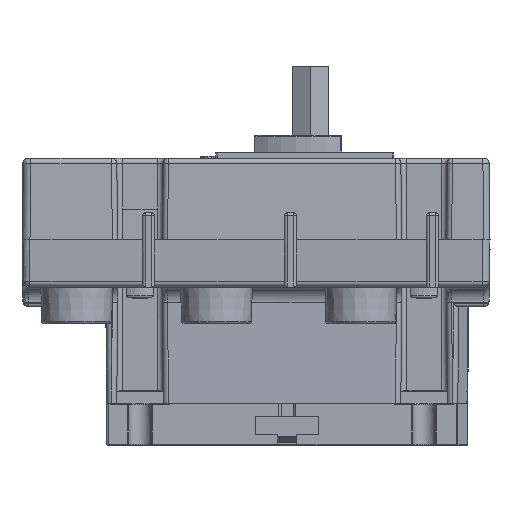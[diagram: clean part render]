
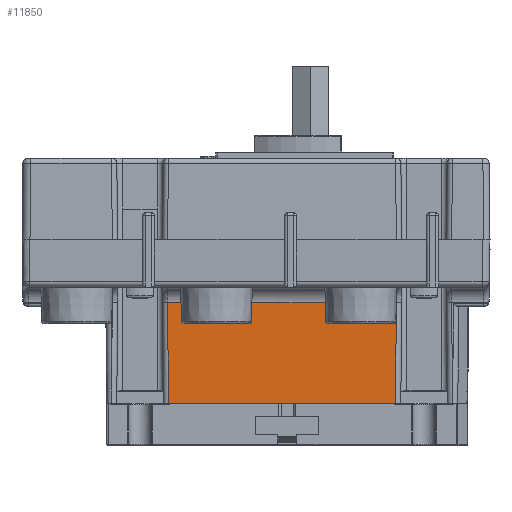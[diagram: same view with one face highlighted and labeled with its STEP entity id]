
A CAD part, front view. The second image highlights one B-rep face of the part: STEP entity #11850.
In plain terms, the highlighted planar face has unit normal (0, -1, -0.011).
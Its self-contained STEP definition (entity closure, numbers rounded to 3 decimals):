
#620=DIRECTION('',(-0.007,0.011,-1.));
#621=VECTOR('',#620,19.134);
#622=CARTESIAN_POINT('',(20.106,-35.208,-12.067));
#623=LINE('',#622,#621);
#624=DIRECTION('',(-1.,0.,0.));
#625=VECTOR('',#624,43.2);
#626=CARTESIAN_POINT('',(19.975,-35.,-31.2));
#627=LINE('',#626,#625);
#628=DIRECTION('',(-0.007,-0.011,1.));
#629=VECTOR('',#628,19.134);
#630=CARTESIAN_POINT('',(-23.225,-35.,-31.2));
#631=LINE('',#630,#629);
#642=DIRECTION('',(-1.,0.,0.));
#643=VECTOR('',#642,43.462);
#644=CARTESIAN_POINT('',(20.106,-35.208,-12.067));
#645=LINE('',#644,#643);
#9324=CARTESIAN_POINT('',(19.975,-35.,-31.2));
#9325=CARTESIAN_POINT('',(-23.225,-35.,-31.2));
#9326=VERTEX_POINT('',#9324);
#9327=VERTEX_POINT('',#9325);
#9362=CARTESIAN_POINT('',(20.106,-35.208,
-12.067));
#9363=CARTESIAN_POINT('',(-23.356,-35.208,
-12.067));
#9364=VERTEX_POINT('',#9362);
#9365=VERTEX_POINT('',#9363);
#11836=CARTESIAN_POINT('',(-1.625,-35.,-31.2));
#11837=DIRECTION('',(0.,-1.,-0.011));
#11838=DIRECTION('',(0.,0.011,-1.));
#11839=AXIS2_PLACEMENT_3D('',#11836,#11837,#11838);
#11840=PLANE('',#11839);
#11842=ORIENTED_EDGE('',*,*,#11841,.F.);
#11844=ORIENTED_EDGE('',*,*,#11843,.T.);
#11845=ORIENTED_EDGE('',*,*,#11780,.T.);
#11847=ORIENTED_EDGE('',*,*,#11846,.T.);
#11848=EDGE_LOOP('',(#11842,#11844,#11845,#11847));
#11849=FACE_OUTER_BOUND('',#11848,.F.);
#11780=EDGE_CURVE('',#9326,#9327,#627,.T.);
#11841=EDGE_CURVE('',#9364,#9365,#645,.T.);
#11843=EDGE_CURVE('',#9364,#9326,#623,.T.);
#11846=EDGE_CURVE('',#9327,#9365,#631,.T.);
#11850=ADVANCED_FACE('',(#11849),#11840,.T.);
